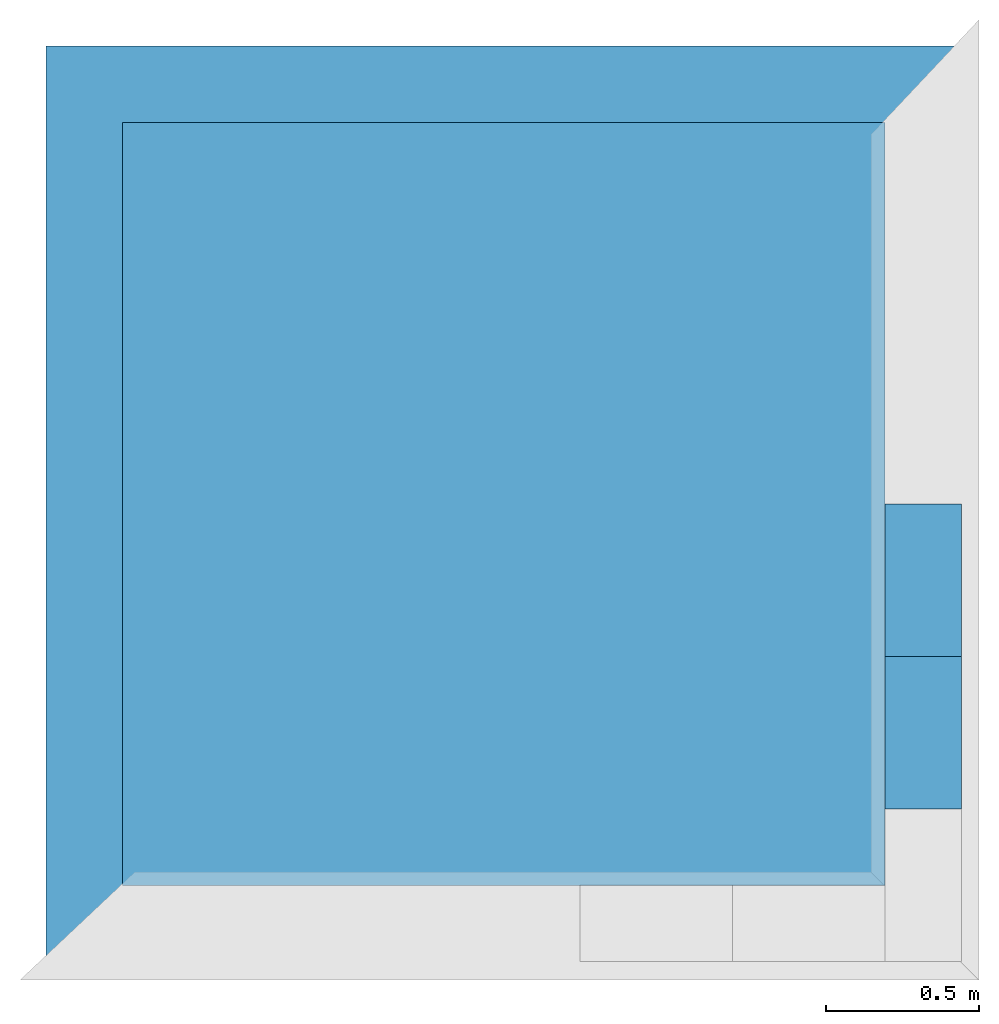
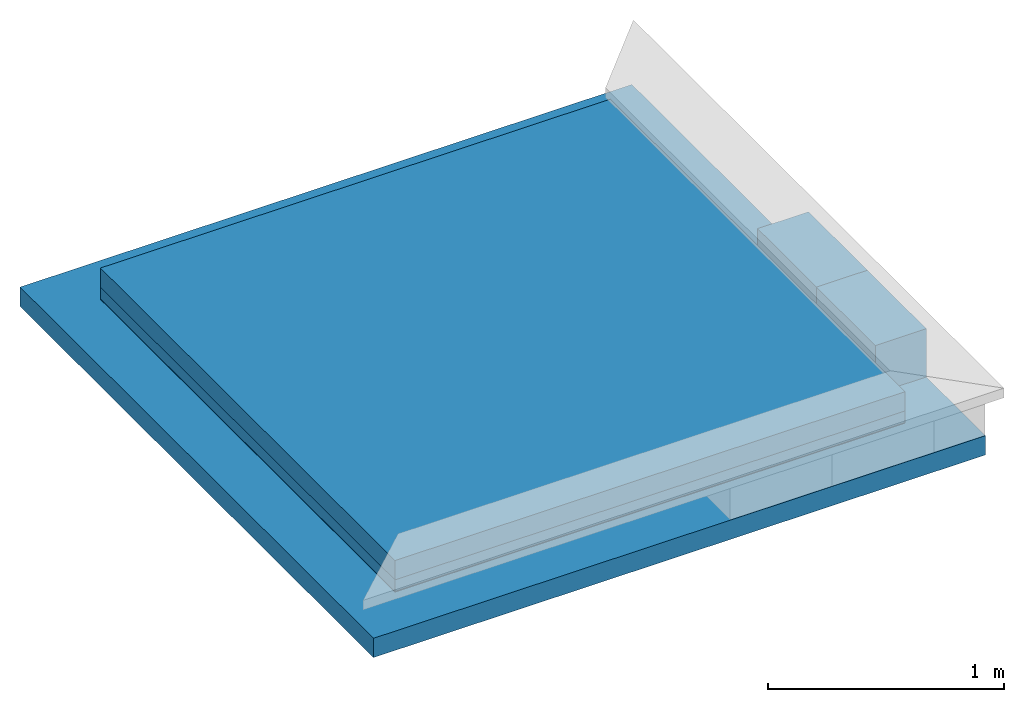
# One storey, part 2 of 3: 4 building element parts, 2 walls, 2 elements without a shape of their own.
"""IFC4 building model written with IfcOpenShell, lengths in centimetres."""

import ifcopenshell
import ifcopenshell.guid

model = None  # the IFC model being written
_history = None  # IfcOwnerHistory: only IFC2X3 demands one
_inside = {}  # id of a spatial element -> (the spatial element, [elements in it])
_under = {}  # id of a project, library or spatial element -> (it, [spatial elements below it])
_declared = {}  # id of a project -> (the project, [libraries it declares])
_typed = {}  # id of a type object -> (the type object, [elements of that type])
_made_of = {}  # id of a material, layer set ... -> (it, [elements and type objects made of it])


def new_model(schema):
    """Start an empty IFC model of exactly this schema.

    Asked for "IFC4X3", IfcOpenShell would pick the latest addendum, in which some entities
    have other attributes; the version numbers below select the first issue.
    IFC2X3 requires an IfcOwnerHistory on every rooted entity: one is made here for all.
    """
    global model, _history
    if schema == "IFC4X3":
        model = ifcopenshell.file(schema_version=(4, 3, 0, 0))
    else:
        model = ifcopenshell.file(schema=schema)
    _inside.clear()
    _under.clear()
    _declared.clear()
    _typed.clear()
    _made_of.clear()
    _history = None
    if model.schema == "IFC2X3":
        org = make("IfcOrganization", Name="unknown")
        user = make(
            "IfcPersonAndOrganization",
            ThePerson=make("IfcPerson", FamilyName="unknown"),
            TheOrganization=org,
        )
        app = make(
            "IfcApplication",
            ApplicationDeveloper=org,
            Version="unknown",
            ApplicationFullName="unknown",
            ApplicationIdentifier="unknown",
        )
        _history = make(
            "IfcOwnerHistory",
            OwningUser=user,
            OwningApplication=app,
            ChangeAction="ADDED",
            CreationDate=0,
        )
    return model


def make(cls, **values):
    """One entity of the class cls with the attributes given. An attribute that is None is left unset."""
    return model.create_entity(
        cls, **{name: value for name, value in values.items() if value is not None}
    )


def entity(cls, *values):
    """Any entity or typed value of the class cls, its attributes in the order of the schema. None: left unset."""
    e = model.create_entity(cls)
    for i, value in enumerate(values):
        if value is not None:
            e[i] = value
    return e


def rooted(cls, **values):
    """An entity with a GlobalId (a new one), such as an element, a storey or a relation."""
    return make(cls, GlobalId=ifcopenshell.guid.new(), OwnerHistory=_history, **values)


def si_unit(unit_type, name, prefix=None):
    """IfcSIUnit, for example si_unit("LENGTHUNIT", "METRE", prefix="MILLI")."""
    return make("IfcSIUnit", UnitType=unit_type, Prefix=prefix, Name=name)


def converted_unit(unit_type, name, factor, base, dimensions=None, offset=None):
    """IfcConversionBasedUnit, such as the inch: factor (a typed value) times the base unit."""
    return make(
        "IfcConversionBasedUnit"
        if offset is None
        else "IfcConversionBasedUnitWithOffset",
        ConversionOffset=offset,
        Dimensions=None
        if dimensions is None
        else entity("IfcDimensionalExponents", *dimensions),
        UnitType=unit_type,
        Name=name,
        ConversionFactor=make(
            "IfcMeasureWithUnit", ValueComponent=factor, UnitComponent=base
        ),
    )


def assignment(units):
    """IfcUnitAssignment: the units of a project."""
    return None if units is None else make("IfcUnitAssignment", Units=units)


def point(xyz):
    """IfcCartesianPoint."""
    return None if xyz is None else make("IfcCartesianPoint", Coordinates=xyz)


def direction(xyz):
    """IfcDirection."""
    return None if xyz is None else make("IfcDirection", DirectionRatios=xyz)


def frame(location, z_axis=None, x_axis=None):
    """IfcAxis2Placement3D, a coordinate frame: its origin and axes. An axis left out is left unset."""
    return make(
        "IfcAxis2Placement3D",
        Location=point(location),
        Axis=direction(z_axis),
        RefDirection=direction(x_axis),
    )


def origin():
    """The frame at (0, 0, 0) with its axes left unset."""
    return frame((0.0, 0.0, 0.0))


def place(relative_to, where):
    """IfcLocalPlacement: puts the frame where relative to a parent placement (None: the world)."""
    return make(
        "IfcLocalPlacement", PlacementRelTo=relative_to, RelativePlacement=where
    )


def context(
    kind, dimensions, precision=None, world=None, true_north=None, identifier=None
):
    """IfcGeometricRepresentationContext, for example the 3D "Model" context."""
    return make(
        "IfcGeometricRepresentationContext",
        ContextIdentifier=identifier,
        ContextType=kind,
        CoordinateSpaceDimension=dimensions,
        Precision=precision,
        WorldCoordinateSystem=world,
        TrueNorth=true_north,
    )


def subcontext(parent, identifier, kind, view, scale=None):
    """IfcGeometricRepresentationSubContext, for example "Body" below "Model"."""
    return make(
        "IfcGeometricRepresentationSubContext",
        ContextIdentifier=identifier,
        ContextType=kind,
        ParentContext=parent,
        TargetScale=scale,
        TargetView=view,
    )


def project(units=None, contexts=None):
    """IfcProject with its units and contexts."""
    return rooted(
        "IfcProject",
        Name="project",
        RepresentationContexts=contexts,
        UnitsInContext=assignment(units),
    )


def spatial(cls, under=None, at=None, **own):
    """A site, building, storey or space (cls), placed at a placement, below another one or the project."""
    s = rooted(cls, ObjectPlacement=at, **own)
    if under is not None:
        _under.setdefault(under.id(), (under, []))[1].append(s)
    return s


def point_list(points):
    """IfcCartesianPointList2D or 3D."""
    cls = (
        "IfcCartesianPointList2D" if len(points[0]) == 2 else "IfcCartesianPointList3D"
    )
    return make(cls, CoordList=points)


def indexed_curve(points, segments=None, self_intersect=None):
    """IfcIndexedPolyCurve: lines and arcs through numbered points (the first is 1)."""
    return make(
        "IfcIndexedPolyCurve",
        Points=point_list(points),
        Segments=segments,
        SelfIntersect=self_intersect,
    )


def outline(outer, holes=None, kind="AREA"):
    """IfcArbitraryClosedProfileDef: a profile drawn as a closed curve; with holes, ...WithVoids."""
    if holes is None:
        return make("IfcArbitraryClosedProfileDef", ProfileType=kind, OuterCurve=outer)
    return make(
        "IfcArbitraryProfileDefWithVoids",
        ProfileType=kind,
        OuterCurve=outer,
        InnerCurves=holes,
    )


def extrude(swept, where, along, depth):
    """IfcExtrudedAreaSolid: the profile swept, set in the frame where, extruded along a direction by depth."""
    return make(
        "IfcExtrudedAreaSolid",
        SweptArea=swept,
        Position=where,
        ExtrudedDirection=direction(along),
        Depth=depth,
    )


def shape(context_of_items, identifier, shape_type, items):
    """IfcShapeRepresentation: the items that make up one representation, for example the "Body"."""
    return make(
        "IfcShapeRepresentation",
        ContextOfItems=context_of_items,
        RepresentationIdentifier=identifier,
        RepresentationType=shape_type,
        Items=items,
    )


def material(Name=None, Category=None):
    """IfcMaterial."""
    return make("IfcMaterial", Name=Name, Category=Category)


def made_of(thing, what):
    """Note that an element or type object is made of a material, layer set ...; save() writes the relation."""
    if what is not None:
        _made_of.setdefault(what.id(), (what, []))[1].append(thing)
    return thing


def type_object(cls, material=None, **own):
    """A type object (cls), such as IfcWallType, which elements share."""
    return made_of(rooted(cls, **own), material)


def element(
    cls,
    number,
    at=None,
    inside=None,
    cuts=None,
    type_object=None,
    material=None,
    context=None,
    identifier="Body",
    shape_type=None,
    held_by="IfcProductDefinitionShape",
    body=None,
    shapes=None,
    **own,
):
    """One element of the class cls, such as IfcWall. Its Tag is "e" and its number.

    at: its placement. inside: the storey or other place that contains it. cuts: it is an
    opening in that element (IfcRelVoidsElement). A single representation is given by context,
    identifier, shape_type and body (its items); several are given by shapes. held_by: the class
    of the entity that holds the representations. save() writes the other relations.
    """
    e = rooted(cls, Tag="e%d" % number, ObjectPlacement=at, **own)
    if body is not None:
        shapes = [shape(context, identifier, shape_type, body)]
    if shapes is not None:
        e.Representation = make(held_by, Representations=shapes)
    if inside is not None:
        _inside.setdefault(inside.id(), (inside, []))[1].append(e)
    if cuts is not None:
        rooted(
            "IfcRelVoidsElement", RelatingBuildingElement=cuts, RelatedOpeningElement=e
        )
    if type_object is not None:
        _typed.setdefault(type_object.id(), (type_object, []))[1].append(e)
    return made_of(e, material)


def aggregate(whole, parts):
    """IfcRelAggregates: a whole, such as a stair, and the parts it consists of."""
    return rooted("IfcRelAggregates", RelatingObject=whole, RelatedObjects=parts)


def save(model, path):
    """Write the relations noted so far, then the file.

    IfcRelAggregates (storeys below a building ...), IfcRelContainedInSpatialStructure (elements
    in a storey), IfcRelDefinesByType, IfcRelAssociatesMaterial and IfcRelDeclares: one each for
    every whole, place, type object, material and project.
    """
    for whole, parts in _under.values():
        aggregate(whole, parts)
    for where, things in _inside.values():
        rooted(
            "IfcRelContainedInSpatialStructure",
            RelatedElements=things,
            RelatingStructure=where,
        )
    for kind, things in _typed.values():
        rooted("IfcRelDefinesByType", RelatedObjects=things, RelatingType=kind)
    for what, things in _made_of.values():
        rooted("IfcRelAssociatesMaterial", RelatedObjects=things, RelatingMaterial=what)
    for by, libraries in _declared.values():
        rooted("IfcRelDeclares", RelatingContext=by, RelatedDefinitions=libraries)
    model.write(path)


model = new_model("IFC4")

# Units and contexts
model_context = context("Model", 3, precision=0.001, world=origin(), true_north=direction((0.0, 1.0)))
body_context = subcontext(model_context, "Body", "Model", "MODEL_VIEW")
ifc_project = project(units=[si_unit("LENGTHUNIT", "METRE", prefix="CENTI"), si_unit("AREAUNIT", "SQUARE_METRE"), si_unit("VOLUMEUNIT", "CUBIC_METRE"), converted_unit("PLANEANGLEUNIT", "DEGREE", entity("IfcPlaneAngleMeasure", 0.017453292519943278), si_unit("PLANEANGLEUNIT", "RADIAN"), dimensions=[0, 0, 0, 0, 0, 0, 0])], contexts=[model_context])

# Site, building, storey
site_placement = place(None, origin())
site = spatial("IfcSite", under=ifc_project, at=site_placement, Name="Default", CompositionType="ELEMENT")
building_placement = place(site_placement, origin())
building = spatial("IfcBuilding", under=site, at=building_placement, CompositionType="ELEMENT")
storey_placement = place(building_placement, frame((0.0, 0.0, 256.0)))
storey = spatial("IfcBuildingStorey", under=building, at=storey_placement, Name="L01__ABOVE Slab", CompositionType="ELEMENT", Elevation=255.9999999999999)

# Walls
ifc_material_1 = material(Name="Miscellaneous__Timber Block__Triqbriq, X", Category="Miscellaneous")
wall_type = type_object("IfcWallType", Name="Columns : wll_s__TIMBER BLOCK__Triqbriq, Full Width__wp : WS25", PredefinedType="SOLIDWALL", material=ifc_material_1)
wall_1_placement = place(storey_placement, frame((3156.8289147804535, 2228.52003096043, 0.0), z_axis=(0.0, 0.0, 1.0), x_axis=(0.0, 1.0, 0.0)))
element("IfcWall", 1, at=wall_1_placement, inside=storey, type_object=wall_type, material=ifc_material_1, Name="Columns : wll_s__TIMBER BLOCK__Triqbriq, Full Width__wp : WS25", PredefinedType="SOLIDWALL", context=body_context, shape_type="SweptSolid", body=[
    extrude(outline(indexed_curve([(-4.166666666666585, -4.166666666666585), (4.166666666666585, -4.166666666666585), (4.166666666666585, 4.166666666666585), (-4.166666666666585, 4.166666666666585), (-4.166666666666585, -4.166666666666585)], self_intersect=False)), frame((12.500000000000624, -12.500000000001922, 16.666666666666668)), (0.0, 0.0, 1.0), 8.333333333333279),
    extrude(outline(indexed_curve([(-4.166666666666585, -4.166666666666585), (4.166666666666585, -4.166666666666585), (4.166666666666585, 4.166666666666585), (-4.166666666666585, 4.166666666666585), (-4.166666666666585, -4.166666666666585)], self_intersect=False)), frame((37.50000000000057, -12.500000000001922, 16.666666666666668)), (0.0, 0.0, 1.0), 8.333333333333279),
    extrude(outline(indexed_curve([(-4.166666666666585, -4.166666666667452), (4.166666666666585, -4.166666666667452), (4.166666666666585, 4.166666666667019), (-4.166666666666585, 4.166666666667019), (-4.166666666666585, -4.166666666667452)], self_intersect=False)), frame((4.166666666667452, -4.166666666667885, 8.333333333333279)), (0.0, 0.0, 1.0), 8.333333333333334),
    extrude(outline(indexed_curve([(-4.166666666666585, -4.166666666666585), (4.166666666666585, -4.166666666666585), (4.166666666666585, 4.166666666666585), (-4.166666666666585, 4.166666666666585), (-4.166666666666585, -4.166666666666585)], self_intersect=False)), frame((4.166666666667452, -20.833333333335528, 8.333333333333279)), (0.0, 0.0, 1.0), 8.333333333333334),
    extrude(outline(indexed_curve([(-4.166666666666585, -4.166666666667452), (4.166666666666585, -4.166666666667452), (4.166666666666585, 4.166666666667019), (-4.166666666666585, 4.166666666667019), (-4.166666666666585, -4.166666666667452)], self_intersect=False)), frame((45.833333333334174, -4.166666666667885, 8.333333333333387)), (0.0, 0.0, 1.0), 8.333333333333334),
    extrude(outline(indexed_curve([(-4.166666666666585, -4.166666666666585), (4.166666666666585, -4.166666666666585), (4.166666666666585, 4.166666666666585), (-4.166666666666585, 4.166666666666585), (-4.166666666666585, -4.166666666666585)], self_intersect=False)), frame((45.833333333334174, -20.833333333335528, 8.333333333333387)), (0.0, 0.0, 1.0), 8.333333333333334),
    extrude(outline(indexed_curve([(-8.33333333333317, -4.166666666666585), (8.333333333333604, -4.166666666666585), (8.333333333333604, 4.166666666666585), (-8.33333333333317, 4.166666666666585), (-8.33333333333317, -4.166666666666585)], self_intersect=False)), frame((25.0, -20.833333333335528, 8.333333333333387)), (0.0, 0.0, 1.0), 8.333333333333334),
    extrude(outline(indexed_curve([(-8.33333333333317, -4.166666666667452), (8.333333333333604, -4.166666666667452), (8.333333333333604, 4.166666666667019), (-8.33333333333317, 4.166666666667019), (-8.33333333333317, -4.166666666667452)], self_intersect=False)), frame((25.0, -4.166666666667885, 8.333333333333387)), (0.0, 0.0, 1.0), 8.333333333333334),
    extrude(outline(indexed_curve([(-24.999999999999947, -4.166666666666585), (24.999999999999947, -4.166666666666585), (24.999999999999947, 4.166666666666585), (-24.999999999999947, 4.166666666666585), (-24.999999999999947, -4.166666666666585)], self_intersect=False)), frame((25.0, -12.500000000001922, 8.333333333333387)), (0.0, 0.0, 1.0), 8.333333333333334),
    extrude(outline(indexed_curve([(-4.166666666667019, -12.50000000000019), (4.166666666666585, -12.50000000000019), (4.166666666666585, 12.500000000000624), (-4.166666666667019, 12.500000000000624), (-4.166666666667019, -12.50000000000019)], self_intersect=False)), frame((20.833333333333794, -12.500000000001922, 0.0)), (0.0, 0.0, 1.0), 8.333333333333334),
    extrude(outline(indexed_curve([(-4.166666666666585, -12.50000000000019), (4.166666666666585, -12.50000000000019), (4.166666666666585, 12.500000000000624), (-4.166666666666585, 12.500000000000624), (-4.166666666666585, -12.50000000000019)], self_intersect=False)), frame((29.166666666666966, -12.500000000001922, 0.0)), (0.0, 0.0, 1.0), 8.333333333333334),
    extrude(outline(indexed_curve([(-4.166666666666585, -12.50000000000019), (4.166666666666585, -12.50000000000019), (4.166666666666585, 12.500000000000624), (-4.166666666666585, 12.500000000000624), (-4.166666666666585, -12.50000000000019)], self_intersect=False)), frame((4.166666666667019, -12.500000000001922, 0.0)), (0.0, 0.0, 1.0), 8.333333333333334),
    extrude(outline(indexed_curve([(-4.166666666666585, -12.50000000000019), (4.166666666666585, -12.50000000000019), (4.166666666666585, 12.500000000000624), (-4.166666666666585, 12.500000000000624), (-4.166666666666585, -12.50000000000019)], self_intersect=False)), frame((45.83333333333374, -12.500000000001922, 0.0)), (0.0, 0.0, 1.0), 8.333333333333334),
    extrude(outline(indexed_curve([(-4.166666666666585, -4.166666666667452), (4.166666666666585, -4.166666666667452), (4.166666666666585, 4.166666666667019), (-4.166666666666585, 4.166666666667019), (-4.166666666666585, -4.166666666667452)], self_intersect=False)), frame((12.50000000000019, -4.166666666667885, 0.0)), (0.0, 0.0, 1.0), 25.0),
    extrude(outline(indexed_curve([(-4.166666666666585, -4.166666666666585), (4.166666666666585, -4.166666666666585), (4.166666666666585, 4.166666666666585), (-4.166666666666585, 4.166666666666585), (-4.166666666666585, -4.166666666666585)], self_intersect=False)), frame((12.50000000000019, -20.833333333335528, 0.0)), (0.0, 0.0, 1.0), 25.0),
    extrude(outline(indexed_curve([(-4.166666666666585, -4.166666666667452), (4.166666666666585, -4.166666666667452), (4.166666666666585, 4.166666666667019), (-4.166666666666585, 4.166666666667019), (-4.166666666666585, -4.166666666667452)], self_intersect=False)), frame((37.500000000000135, -4.166666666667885, 0.0)), (0.0, 0.0, 1.0), 25.0),
    extrude(outline(indexed_curve([(-4.166666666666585, -4.166666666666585), (4.166666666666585, -4.166666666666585), (4.166666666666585, 4.166666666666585), (-4.166666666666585, 4.166666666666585), (-4.166666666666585, -4.166666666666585)], self_intersect=False)), frame((37.500000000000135, -20.833333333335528, 0.0)), (0.0, 0.0, 1.0), 25.0),
    extrude(outline(indexed_curve([(-4.166666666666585, -12.50000000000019), (4.166666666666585, -12.50000000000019), (4.166666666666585, 12.500000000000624), (-4.166666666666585, 12.500000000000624), (-4.166666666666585, -12.50000000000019)], self_intersect=False)), frame((4.166666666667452, -12.500000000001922, 16.666666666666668)), (0.0, 0.0, 1.0), 8.333333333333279),
    extrude(outline(indexed_curve([(-4.166666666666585, -12.50000000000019), (4.166666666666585, -12.50000000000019), (4.166666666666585, 12.500000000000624), (-4.166666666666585, 12.500000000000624), (-4.166666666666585, -12.50000000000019)], self_intersect=False)), frame((20.833333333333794, -12.500000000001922, 16.666666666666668)), (0.0, 0.0, 1.0), 8.333333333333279),
    extrude(outline(indexed_curve([(-4.166666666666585, -12.50000000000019), (4.166666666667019, -12.50000000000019), (4.166666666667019, 12.500000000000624), (-4.166666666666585, 12.500000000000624), (-4.166666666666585, -12.50000000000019)], self_intersect=False)), frame((29.166666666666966, -12.500000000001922, 16.666666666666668)), (0.0, 0.0, 1.0), 8.333333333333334),
    extrude(outline(indexed_curve([(-4.166666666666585, -12.50000000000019), (4.166666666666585, -12.50000000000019), (4.166666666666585, 12.500000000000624), (-4.166666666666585, 12.500000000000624), (-4.166666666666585, -12.50000000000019)], self_intersect=False)), frame((45.833333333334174, -12.500000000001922, 16.666666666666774)), (0.0, 0.0, 1.0), 8.333333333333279),
])
wall_2_placement = place(storey_placement, frame((3156.8289147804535, 2178.520030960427, 0.0), z_axis=(0.0, 0.0, 1.0), x_axis=(0.0, 1.0, 0.0)))
element("IfcWall", 2, at=wall_2_placement, inside=storey, type_object=wall_type, material=ifc_material_1, Name="Columns : wll_s__TIMBER BLOCK__Triqbriq, Full Width__wp : WS25", PredefinedType="SOLIDWALL", context=body_context, shape_type="SweptSolid", body=[
    extrude(outline(indexed_curve([(-4.166666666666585, -4.166666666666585), (4.166666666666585, -4.166666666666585), (4.166666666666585, 4.166666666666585), (-4.166666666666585, 4.166666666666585), (-4.166666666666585, -4.166666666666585)], self_intersect=False)), frame((12.500000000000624, -12.500000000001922, 16.666666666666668)), (0.0, 0.0, 1.0), 8.333333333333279),
    extrude(outline(indexed_curve([(-4.166666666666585, -4.166666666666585), (4.166666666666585, -4.166666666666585), (4.166666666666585, 4.166666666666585), (-4.166666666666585, 4.166666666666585), (-4.166666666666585, -4.166666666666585)], self_intersect=False)), frame((37.50000000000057, -12.500000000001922, 16.666666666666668)), (0.0, 0.0, 1.0), 8.333333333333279),
    extrude(outline(indexed_curve([(-4.166666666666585, -4.166666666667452), (4.166666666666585, -4.166666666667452), (4.166666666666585, 4.166666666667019), (-4.166666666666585, 4.166666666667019), (-4.166666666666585, -4.166666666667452)], self_intersect=False)), frame((4.166666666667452, -4.166666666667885, 8.333333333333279)), (0.0, 0.0, 1.0), 8.333333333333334),
    extrude(outline(indexed_curve([(-4.166666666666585, -4.166666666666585), (4.166666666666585, -4.166666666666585), (4.166666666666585, 4.166666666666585), (-4.166666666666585, 4.166666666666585), (-4.166666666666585, -4.166666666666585)], self_intersect=False)), frame((4.166666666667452, -20.833333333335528, 8.333333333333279)), (0.0, 0.0, 1.0), 8.333333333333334),
    extrude(outline(indexed_curve([(-4.166666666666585, -4.166666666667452), (4.166666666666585, -4.166666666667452), (4.166666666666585, 4.166666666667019), (-4.166666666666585, 4.166666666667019), (-4.166666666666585, -4.166666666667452)], self_intersect=False)), frame((45.833333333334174, -4.166666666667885, 8.333333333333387)), (0.0, 0.0, 1.0), 8.333333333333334),
    extrude(outline(indexed_curve([(-4.166666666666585, -4.166666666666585), (4.166666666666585, -4.166666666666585), (4.166666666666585, 4.166666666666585), (-4.166666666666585, 4.166666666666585), (-4.166666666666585, -4.166666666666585)], self_intersect=False)), frame((45.833333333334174, -20.833333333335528, 8.333333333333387)), (0.0, 0.0, 1.0), 8.333333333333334),
    extrude(outline(indexed_curve([(-8.333333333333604, -4.166666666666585), (8.33333333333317, -4.166666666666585), (8.33333333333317, 4.166666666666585), (-8.333333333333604, 4.166666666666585), (-8.333333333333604, -4.166666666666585)], self_intersect=False)), frame((25.0, -20.833333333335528, 8.333333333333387)), (0.0, 0.0, 1.0), 8.333333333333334),
    extrude(outline(indexed_curve([(-8.333333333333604, -4.166666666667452), (8.33333333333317, -4.166666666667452), (8.33333333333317, 4.166666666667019), (-8.333333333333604, 4.166666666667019), (-8.333333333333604, -4.166666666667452)], self_intersect=False)), frame((25.0, -4.166666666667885, 8.333333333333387)), (0.0, 0.0, 1.0), 8.333333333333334),
    extrude(outline(indexed_curve([(-24.999999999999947, -4.166666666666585), (24.999999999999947, -4.166666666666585), (24.999999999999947, 4.166666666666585), (-24.999999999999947, 4.166666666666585), (-24.999999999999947, -4.166666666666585)], self_intersect=False)), frame((25.0, -12.500000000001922, 8.333333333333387)), (0.0, 0.0, 1.0), 8.333333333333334),
    extrude(outline(indexed_curve([(-4.166666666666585, -12.50000000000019), (4.166666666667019, -12.50000000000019), (4.166666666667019, 12.500000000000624), (-4.166666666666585, 12.500000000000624), (-4.166666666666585, -12.50000000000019)], self_intersect=False)), frame((20.83333333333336, -12.500000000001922, 0.0)), (0.0, 0.0, 1.0), 8.333333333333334),
    extrude(outline(indexed_curve([(-4.166666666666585, -12.50000000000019), (4.166666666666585, -12.50000000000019), (4.166666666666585, 12.500000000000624), (-4.166666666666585, 12.500000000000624), (-4.166666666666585, -12.50000000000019)], self_intersect=False)), frame((29.166666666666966, -12.500000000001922, 0.0)), (0.0, 0.0, 1.0), 8.333333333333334),
    extrude(outline(indexed_curve([(-4.166666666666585, -12.50000000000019), (4.166666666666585, -12.50000000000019), (4.166666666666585, 12.500000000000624), (-4.166666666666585, 12.500000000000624), (-4.166666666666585, -12.50000000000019)], self_intersect=False)), frame((4.166666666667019, -12.500000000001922, 0.0)), (0.0, 0.0, 1.0), 8.333333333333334),
    extrude(outline(indexed_curve([(-4.166666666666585, -12.50000000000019), (4.166666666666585, -12.50000000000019), (4.166666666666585, 12.500000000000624), (-4.166666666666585, 12.500000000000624), (-4.166666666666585, -12.50000000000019)], self_intersect=False)), frame((45.83333333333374, -12.500000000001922, 0.0)), (0.0, 0.0, 1.0), 8.333333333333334),
    extrude(outline(indexed_curve([(-4.166666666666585, -4.166666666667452), (4.166666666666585, -4.166666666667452), (4.166666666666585, 4.166666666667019), (-4.166666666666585, 4.166666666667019), (-4.166666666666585, -4.166666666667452)], self_intersect=False)), frame((12.50000000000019, -4.166666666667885, 0.0)), (0.0, 0.0, 1.0), 25.0),
    extrude(outline(indexed_curve([(-4.166666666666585, -4.166666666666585), (4.166666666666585, -4.166666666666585), (4.166666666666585, 4.166666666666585), (-4.166666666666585, 4.166666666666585), (-4.166666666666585, -4.166666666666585)], self_intersect=False)), frame((12.50000000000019, -20.833333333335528, 0.0)), (0.0, 0.0, 1.0), 25.0),
    extrude(outline(indexed_curve([(-4.166666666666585, -4.166666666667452), (4.166666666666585, -4.166666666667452), (4.166666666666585, 4.166666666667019), (-4.166666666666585, 4.166666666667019), (-4.166666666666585, -4.166666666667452)], self_intersect=False)), frame((37.500000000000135, -4.166666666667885, 0.0)), (0.0, 0.0, 1.0), 25.0),
    extrude(outline(indexed_curve([(-4.166666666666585, -4.166666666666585), (4.166666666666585, -4.166666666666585), (4.166666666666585, 4.166666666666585), (-4.166666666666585, 4.166666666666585), (-4.166666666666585, -4.166666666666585)], self_intersect=False)), frame((37.500000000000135, -20.833333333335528, 0.0)), (0.0, 0.0, 1.0), 25.0),
    extrude(outline(indexed_curve([(-4.166666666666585, -12.50000000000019), (4.166666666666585, -12.50000000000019), (4.166666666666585, 12.500000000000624), (-4.166666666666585, 12.500000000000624), (-4.166666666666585, -12.50000000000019)], self_intersect=False)), frame((4.166666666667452, -12.500000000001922, 16.666666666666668)), (0.0, 0.0, 1.0), 8.333333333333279),
    extrude(outline(indexed_curve([(-4.166666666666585, -12.50000000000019), (4.166666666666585, -12.50000000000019), (4.166666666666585, 12.500000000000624), (-4.166666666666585, 12.500000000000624), (-4.166666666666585, -12.50000000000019)], self_intersect=False)), frame((20.833333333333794, -12.500000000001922, 16.666666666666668)), (0.0, 0.0, 1.0), 8.333333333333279),
    extrude(outline(indexed_curve([(-4.166666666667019, -12.50000000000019), (4.166666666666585, -12.50000000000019), (4.166666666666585, 12.500000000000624), (-4.166666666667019, 12.500000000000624), (-4.166666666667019, -12.50000000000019)], self_intersect=False)), frame((29.1666666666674, -12.500000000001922, 16.666666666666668)), (0.0, 0.0, 1.0), 8.333333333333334),
    extrude(outline(indexed_curve([(-4.166666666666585, -12.50000000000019), (4.166666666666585, -12.50000000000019), (4.166666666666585, 12.500000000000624), (-4.166666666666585, 12.500000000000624), (-4.166666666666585, -12.50000000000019)], self_intersect=False)), frame((45.833333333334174, -12.500000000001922, 16.666666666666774)), (0.0, 0.0, 1.0), 8.333333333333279),
])

# Slab, building element part
slab_type_1 = type_object("IfcSlabType", Name="Floors : Floor : flr__STRUCTURE__Wood CLT 10cm__TriqBriq 2", PredefinedType="FLOOR")
slab_1_placement = place(storey_placement, origin())
slab_1 = element("IfcSlab", 3, at=slab_1_placement, inside=storey, type_object=slab_type_1, Name="Floors : Floor : flr__STRUCTURE__Wood CLT 10cm__TriqBriq 2", PredefinedType="FLOOR")
ifc_material_2 = material(Name="_STRUCTURE__Wood CLT")
building_element_part_1_placement = place(slab_1_placement, origin())
building_element_part_1 = element("IfcBuildingElementPart", 4, at=building_element_part_1_placement, material=ifc_material_2, Name="_STRUCTURE__Wood CLT", context=body_context, shape_type="SweptSolid", body=[
    extrude(outline(indexed_curve([(-150.10000000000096, -149.9999999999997), (150.1000000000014, -149.9999999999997), (150.1000000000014, 149.9999999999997), (-150.10000000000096, 149.9999999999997), (-150.10000000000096, -149.9999999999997)], self_intersect=False)), frame((3031.8289147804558, 2278.420030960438, -10.0), z_axis=(0.0, 0.0, 1.0), x_axis=(0.0, -1.0, 0.0)), (0.0, 0.0, 1.0), 10.0),
])
aggregate(slab_1, [building_element_part_1])

# Slab, building element parts
slab_type_2 = type_object("IfcSlabType", Name="Floors : Floor : flr__EXT ENCLOSURE__Vegetation, 13.4cm__TriqBriq 2", PredefinedType="FLOOR")
slab_2_placement = place(storey_placement, origin())
slab_2 = element("IfcSlab", 5, at=slab_2_placement, inside=storey, type_object=slab_type_2, Name="Floors : Floor : flr__EXT ENCLOSURE__Vegetation, 13.4cm__TriqBriq 2", PredefinedType="FLOOR")
ifc_material_3 = material(Name="_GREENERY__Subgrade__Earth")
building_element_part_2_placement = place(slab_2_placement, origin())
building_element_part_2 = element("IfcBuildingElementPart", 6, at=building_element_part_2_placement, material=ifc_material_3, Name="_GREENERY__Subgrade__Earth", context=body_context, shape_type="SweptSolid", body=[
    extrude(outline(indexed_curve([(-125.04999999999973, -125.00000000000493), (125.04999999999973, -125.00000000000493), (125.04999999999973, 125.00000000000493), (-125.04999999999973, 125.00000000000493), (-125.04999999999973, -125.00000000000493)], self_intersect=False)), frame((3031.8289147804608, 2278.470030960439, 6.299999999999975), z_axis=(0.0, 0.0, 1.0), x_axis=(0.0, -1.0, 0.0)), (0.0, 0.0, 1.0), 10.0),
])
ifc_material_4 = material(Name="_FLR LAYERS__Equalization Infill__Gravel", Category="Unassigned")
building_element_part_3_placement = place(slab_2_placement, origin())
building_element_part_3 = element("IfcBuildingElementPart", 7, at=building_element_part_3_placement, material=ifc_material_4, Name="_FLR LAYERS__Equalization Infill__Gravel", context=body_context, shape_type="SweptSolid", body=[
    extrude(outline(indexed_curve([(-125.04999999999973, -125.00000000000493), (125.04999999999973, -125.00000000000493), (125.04999999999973, 125.00000000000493), (-125.04999999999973, 125.00000000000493), (-125.04999999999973, -125.00000000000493)], self_intersect=False)), frame((3031.8289147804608, 2278.470030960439, 0.29999999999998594), z_axis=(0.0, 0.0, 1.0), x_axis=(0.0, -1.0, 0.0)), (0.0, 0.0, 1.0), 5.999999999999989),
])
ifc_material_5 = material(Name="_FLAT ROOF LAYERS__WP Membrane", Category="Unassigned")
building_element_part_4_placement = place(slab_2_placement, origin())
building_element_part_4 = element("IfcBuildingElementPart", 8, at=building_element_part_4_placement, material=ifc_material_5, Name="_FLAT ROOF LAYERS__WP Membrane", context=body_context, shape_type="SweptSolid", body=[
    extrude(outline(indexed_curve([(-125.04999999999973, -125.00000000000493), (125.04999999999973, -125.00000000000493), (125.04999999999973, 125.00000000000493), (-125.04999999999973, 125.00000000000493), (-125.04999999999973, -125.00000000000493)], self_intersect=False)), frame((3031.8289147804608, 2278.470030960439, 0.0), z_axis=(0.0, 0.0, 1.0), x_axis=(0.0, -1.0, 0.0)), (0.0, 0.0, 1.0), 0.29999999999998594),
])
aggregate(slab_2, [building_element_part_2, building_element_part_3, building_element_part_4])

save(model, "model.ifc")
